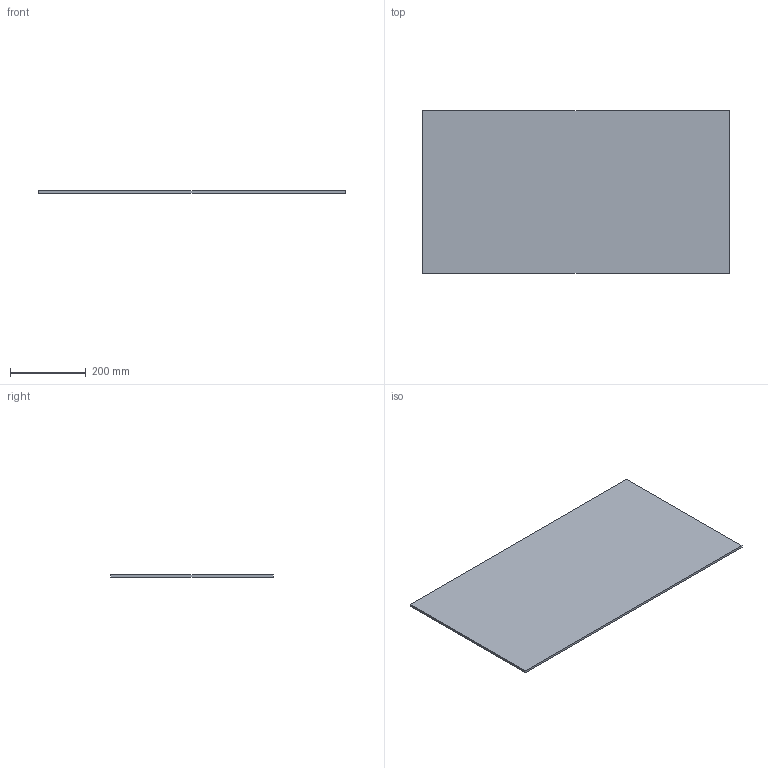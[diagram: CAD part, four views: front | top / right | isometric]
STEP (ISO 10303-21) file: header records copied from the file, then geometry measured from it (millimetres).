
FILE_DESCRIPTION (( 'STEP AP214' ), '1' );
FILE_NAME ('Lochblech_NL450_KAB900_16.step', '2010-10-11T13:38:28', ( 'grass' ), ( '' ), 'SwSTEP 2.0', 'SolidWorks 2010', '' );
FILE_SCHEMA (( 'AUTOMOTIVE_DESIGN' ));
Length unit declared in the file: millimetre
Products named in the file (1): Lochblech_NL450_KAB900_16
Bounding box: 808 x 429 x 6 mm (x, y, z)
Volume: 2079792 mm3; surface area: 708108 mm2
Topology: 1 solids, 1 shells, 6 faces, 12 edges, 8 vertices
Faces by surface type: plane 6
Entity records: 190 total; most frequent: CARTESIAN_POINT 27, DIRECTION 26, ORIENTED_EDGE 24, EDGE_CURVE 12, LINE 12, VECTOR 12, VERTEX_POINT 8, AXIS2_PLACEMENT_3D 7
